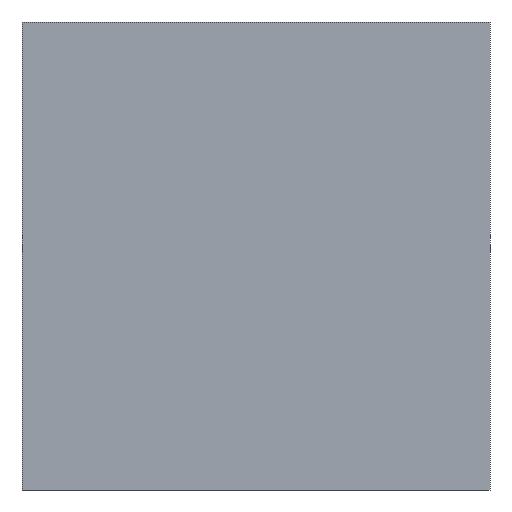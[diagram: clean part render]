
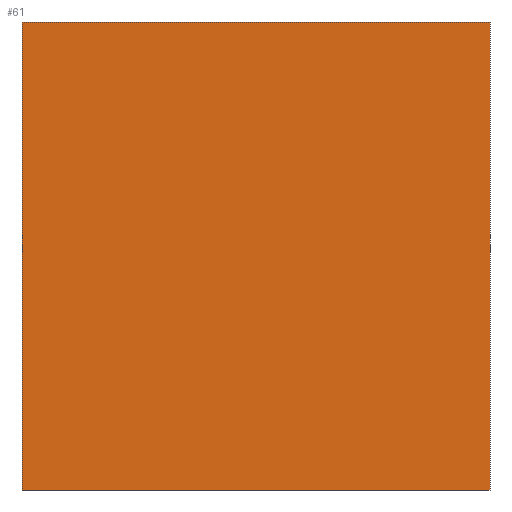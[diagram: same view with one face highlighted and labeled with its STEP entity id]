
A CAD part, front view. The second image highlights one B-rep face of the part: STEP entity #61.
In plain terms, the highlighted planar face has unit normal (0, -1, 0).
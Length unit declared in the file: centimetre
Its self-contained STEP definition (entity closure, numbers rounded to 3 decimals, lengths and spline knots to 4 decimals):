
#27 = CARTESIAN_POINT ( 'NONE',  ( 1000., 0., 1000. ) ) ;
#38 = VERTEX_POINT ( 'NONE', #457 ) ;
#61 = ADVANCED_FACE ( 'NONE', ( #454 ), #238, .F. ) ;
#76 = EDGE_CURVE ( 'NONE', #38, #82, #316, .T. ) ;
#77 = VERTEX_POINT ( 'NONE', #27 ) ;
#79 = EDGE_CURVE ( 'NONE', #82, #294, #102, .T. ) ;
#82 = VERTEX_POINT ( 'NONE', #389 ) ;
#96 = VECTOR ( 'NONE', #202, 100. ) ;
#102 = LINE ( 'NONE', #245, #96 ) ;
#124 = EDGE_LOOP ( 'NONE', ( #367, #133, #402, #176 ) ) ;
#133 = ORIENTED_EDGE ( 'NONE', *, *, #287, .F. ) ;
#174 = EDGE_CURVE ( 'NONE', #38, #77, #251, .T. ) ;
#176 = ORIENTED_EDGE ( 'NONE', *, *, #76, .T. ) ;
#183 = CARTESIAN_POINT ( 'NONE',  ( 1000., 0., 0. ) ) ;
#202 = DIRECTION ( 'NONE',  ( 1., 0., 0. ) ) ;
#204 = CARTESIAN_POINT ( 'NONE',  ( 0., 0., 1000. ) ) ;
#237 = DIRECTION ( 'NONE',  ( 0., 1., 0. ) ) ;
#238 = PLANE ( 'NONE',  #256 ) ;
#245 = CARTESIAN_POINT ( 'NONE',  ( 0., 0., 0. ) ) ;
#250 = CARTESIAN_POINT ( 'NONE',  ( 1000., 0., 1000. ) ) ;
#251 = LINE ( 'NONE', #361, #364 ) ;
#256 = AXIS2_PLACEMENT_3D ( 'NONE', #204, #237, #348 ) ;
#287 = EDGE_CURVE ( 'NONE', #77, #294, #322, .T. ) ;
#294 = VERTEX_POINT ( 'NONE', #183 ) ;
#296 = VECTOR ( 'NONE', #426, 100. ) ;
#316 = LINE ( 'NONE', #452, #296 ) ;
#322 = LINE ( 'NONE', #250, #419 ) ;
#348 = DIRECTION ( 'NONE',  ( 0., 0., 1. ) ) ;
#361 = CARTESIAN_POINT ( 'NONE',  ( 0., 0., 1000. ) ) ;
#364 = VECTOR ( 'NONE', #427, 100. ) ;
#367 = ORIENTED_EDGE ( 'NONE', *, *, #79, .T. ) ;
#389 = CARTESIAN_POINT ( 'NONE',  ( 0., 0., 0. ) ) ;
#393 = DIRECTION ( 'NONE',  ( 0., 0., -1. ) ) ;
#402 = ORIENTED_EDGE ( 'NONE', *, *, #174, .F. ) ;
#419 = VECTOR ( 'NONE', #393, 100. ) ;
#426 = DIRECTION ( 'NONE',  ( 0., 0., -1. ) ) ;
#427 = DIRECTION ( 'NONE',  ( 1., 0., 0. ) ) ;
#452 = CARTESIAN_POINT ( 'NONE',  ( 0., 0., 1000. ) ) ;
#454 = FACE_OUTER_BOUND ( 'NONE', #124, .T. ) ;
#457 = CARTESIAN_POINT ( 'NONE',  ( 0., 0., 1000. ) ) ;
